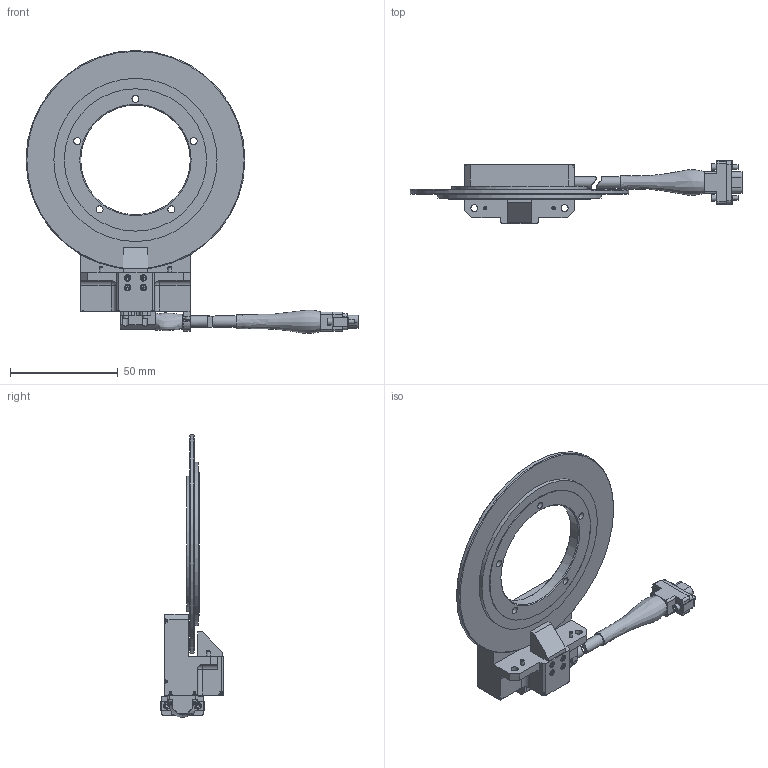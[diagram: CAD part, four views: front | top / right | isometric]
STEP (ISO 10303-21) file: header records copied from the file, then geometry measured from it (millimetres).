
FILE_DESCRIPTION (( 'STEP AP214' ), '1' );
FILE_NAME ('190-0324-03 Encoder Outline, 4 inch.STEP', '2019-10-30T19:06:13', ( '' ), ( '' ), 'SwSTEP 2.0', 'SolidWorks 2019', '' );
FILE_SCHEMA (( 'AUTOMOTIVE_DESIGN' ));
Length unit declared in the file: inch
Products named in the file (3): Disk Hub Assy, 4 inch; TRACKER Readhead Assy, Left Exit; 190-0324-03 Encoder Outline, 4 inch
Assembly tree (2 placements, depth 2):
  190-0324-03 Encoder Outline, 4 inch
    Disk Hub Assy, 4 inch
    TRACKER Readhead Assy, Left Exit
Bounding box: 154.06 x 29.66 x 131.32 mm (x, y, z)
Volume: 57070.9 mm3; surface area: 28196.8 mm2
Topology: 3 solids, 21 shells, 1802 faces, 4492 edges, 2878 vertices
Faces by surface type: plane 1107, cylinder 279, bspline 209, cone 197, torus 8, sphere 2
Full cylindrical faces by diameter (mm): 0.564 x9, 0.813 x9, 1.3 x2, 1.513 x1, 1.524 x68, 1.58 x2, 1.587 x2, 1.59 x2, 1.778 x14, 1.93 x4, 2.08 x2, 2.1 x4, 2.3 x2, 2.339 x1, 2.36 x2, 2.388 x2, 2.438 x18, 3.18 x2, 3.251 x2, 3.264 x5, 5.309 x3, 50.8 x1, 62.738 x1, 64.262 x1, 66.04 x1, 75.743 x1, 101.6 x1
Entity records: 95961 total; most frequent: CARTESIAN_POINT 32693, ORIENTED_EDGE 7972, DIRECTION 7521, EDGE_CURVE 3986, LINE 2757, VECTOR 2757, VERTEX_POINT 2750, EDGE_LOOP 2388
